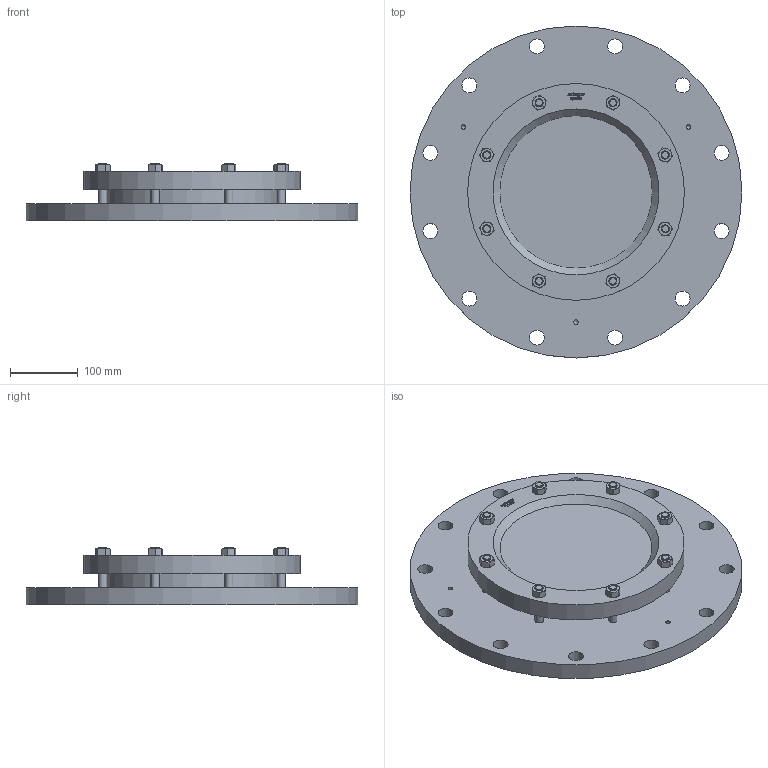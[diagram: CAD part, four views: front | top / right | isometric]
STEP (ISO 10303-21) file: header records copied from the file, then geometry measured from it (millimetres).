
FILE_DESCRIPTION(/* description */ (''),/* implementation_level */ '2;1');
FILE_NAME(/* name */ 'W:\Konstruktion_ACI\325\_STEP\325-350-6.stp',/* time_stamp */ '2022-03-02T17:04:16+01:00',/* author */ ('koslowksi'),/* organization */ (''),/* preprocessor_version */ 'ST-DEVELOPER v16.1',/* originating_system */ 'Autodesk Inventor 2016',/* authorisation */ '');
FILE_SCHEMA (('AUTOMOTIVE_DESIGN { 1 0 10303 214 3 1 1 }'));
Length unit declared in the file: millimetre
Products named in the file (1): 325-350-6
Bounding box: 490 x 490 x 85 mm (x, y, z)
Volume: 7445461.7 mm3; surface area: 545301.9 mm2
Topology: 1 solids, 1 shells, 449 faces, 1140 edges, 731 vertices
Faces by surface type: plane 199, cone 108, bspline 108, cylinder 34
Full cylindrical faces by diameter (mm): 6.647 x3, 12 x16, 22 x12, 254 x1, 320 x1, 490 x1
Entity records: 13870 total; most frequent: CARTESIAN_POINT 4017, ORIENTED_EDGE 2142, DIRECTION 1521, EDGE_CURVE 1071, VERTEX_POINT 708, EDGE_LOOP 573, AXIS2_PLACEMENT_3D 516, LINE 489
